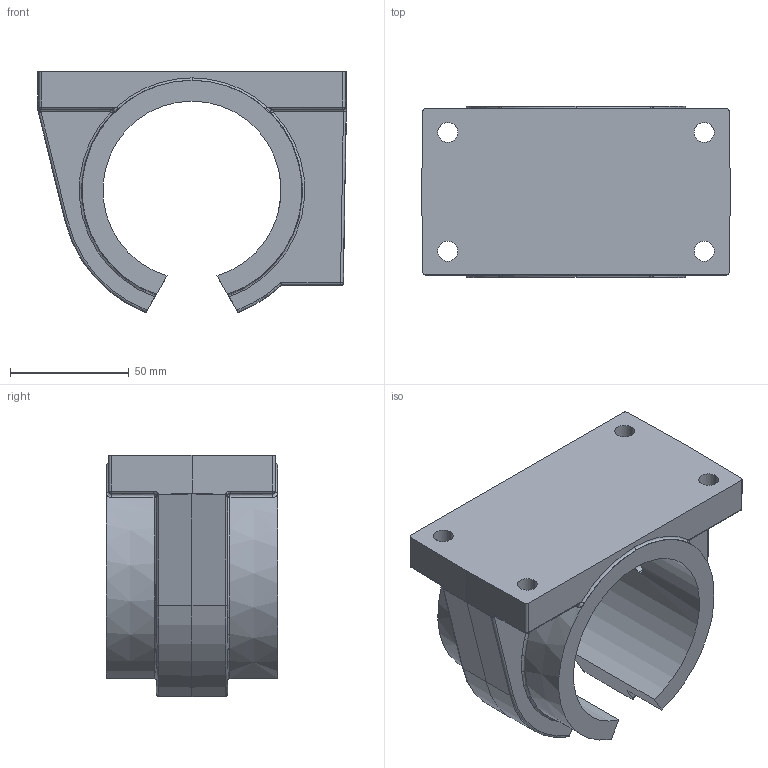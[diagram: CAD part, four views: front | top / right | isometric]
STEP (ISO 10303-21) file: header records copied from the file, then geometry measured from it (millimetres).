
FILE_DESCRIPTION (( 'STEP AP203' ), '1' );
FILE_NAME ('KGGO67-50.step', '2020-03-10T16:04:59', ( '' ), ( '' ), 'SwSTEP 2.0', 'SolidWorks 2019', '' );
FILE_SCHEMA (( 'CONFIG_CONTROL_DESIGN' ));
Length unit declared in the file: millimetre
Products named in the file (2): KGGO67-50
Bounding box: 129.98 x 72 x 101.46 mm (x, y, z)
Volume: 345995.4 mm3; surface area: 60440 mm2
Topology: 1 solids, 1 shells, 125 faces, 297 edges, 172 vertices
Faces by surface type: cylinder 48, plane 30, bspline 16, torus 12, sphere 12, cone 7
Entity records: 4231 total; most frequent: CARTESIAN_POINT 1328, ORIENTED_EDGE 582, DIRECTION 580, EDGE_CURVE 291, AXIS2_PLACEMENT_3D 240, VERTEX_POINT 172, EDGE_LOOP 139, CIRCLE 129
